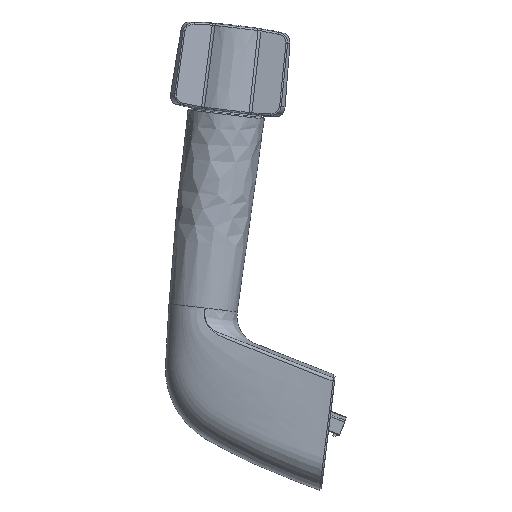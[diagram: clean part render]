
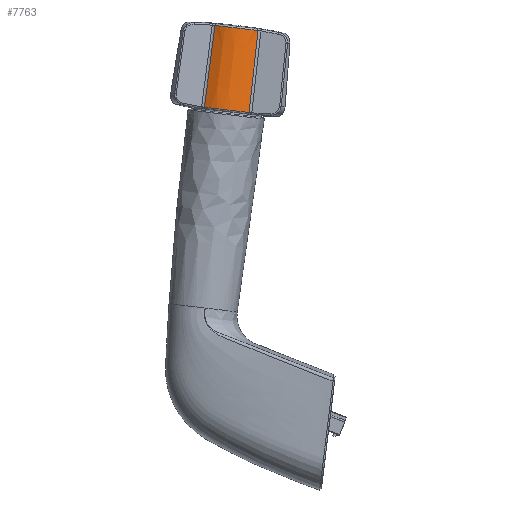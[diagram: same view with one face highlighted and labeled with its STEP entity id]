
A CAD part, top view. The second image highlights one B-rep face of the part: STEP entity #7763.
In plain terms, the highlighted conical face has half-angle 2 degrees and reference radius 20 mm.
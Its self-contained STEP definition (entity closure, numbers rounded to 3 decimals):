
#3190 = EDGE_CURVE ( 'NONE', #4532, #4538, #21176, .T. ) ;
#3191 = EDGE_CURVE ( 'NONE', #4538, #4542, #12660, .T. ) ;
#3192 = EDGE_CURVE ( 'NONE', #4542, #4543, #21175, .T. ) ;
#3193 = EDGE_CURVE ( 'NONE', #4543, #4532, #12659, .T. ) ;
#4114 = ORIENTED_EDGE ( 'NONE', *, *, #3190, .T. ) ;
#4115 = ORIENTED_EDGE ( 'NONE', *, *, #3191, .T. ) ;
#4116 = ORIENTED_EDGE ( 'NONE', *, *, #3192, .T. ) ;
#4117 = ORIENTED_EDGE ( 'NONE', *, *, #3193, .T. ) ;
#4532 = VERTEX_POINT ( 'NONE', #14474 ) ;
#4538 = VERTEX_POINT ( 'NONE', #14480 ) ;
#4542 = VERTEX_POINT ( 'NONE', #14484 ) ;
#4543 = VERTEX_POINT ( 'NONE', #14485 ) ;
#7763 = ADVANCED_FACE ( 'NONE', ( #20759 ), #18428, .T. ) ;
#12404 = EDGE_LOOP ( 'NONE', ( #4114, #4115, #4116, #4117 ) ) ;
#12659 = CIRCLE ( 'NONE', #12662, 19.971 ) ;
#12660 = CIRCLE ( 'NONE', #12661, 18.544 ) ;
#12661 = AXIS2_PLACEMENT_3D ( 'NONE', #13714, #13715, #13716 ) ;
#12662 = AXIS2_PLACEMENT_3D ( 'NONE', #13725, #13726, #13727 ) ;
#13699 = CARTESIAN_POINT ( 'NONE',  ( -114.625, 196.486, 16.545 ) ) ;
#13700 = CARTESIAN_POINT ( 'NONE',  ( -114.51, 197.537, 16.507 ) ) ;
#13704 = CARTESIAN_POINT ( 'NONE',  ( -114.74, 195.435, 16.583 ) ) ;
#13705 = CARTESIAN_POINT ( 'NONE',  ( -114.395, 198.588, 16.469 ) ) ;
#13706 = CARTESIAN_POINT ( 'NONE',  ( -113.814, 203.886, 16.279 ) ) ;
#13707 = CARTESIAN_POINT ( 'NONE',  ( -113.234, 209.184, 16.089 ) ) ;
#13708 = CARTESIAN_POINT ( 'NONE',  ( -112.655, 214.483, 15.899 ) ) ;
#13709 = CARTESIAN_POINT ( 'NONE',  ( -111.868, 221.678, 15.641 ) ) ;
#13710 = CARTESIAN_POINT ( 'NONE',  ( -111.083, 228.873, 15.383 ) ) ;
#13711 = CARTESIAN_POINT ( 'NONE',  ( -110.299, 236.068, 15.125 ) ) ;
#13712 = CARTESIAN_POINT ( 'NONE',  ( -131.745, 237.527, 15.164 ) ) ;
#13713 = CARTESIAN_POINT ( 'NONE',  ( -131.885, 236.446, 15.203 ) ) ;
#13714 = CARTESIAN_POINT ( 'NONE',  ( -120.952, 237.338, 0. ) ) ;
#13715 = DIRECTION ( 'NONE',  ( -0.118, -0.993, 0. ) ) ;
#13716 = DIRECTION ( 'NONE',  ( 0.993, -0.118, 0. ) ) ;
#13717 = CARTESIAN_POINT ( 'NONE',  ( -131.605, 238.609, 15.125 ) ) ;
#13718 = CARTESIAN_POINT ( 'NONE',  ( -132.025, 235.365, 15.242 ) ) ;
#13719 = CARTESIAN_POINT ( 'NONE',  ( -132.709, 230.079, 15.432 ) ) ;
#13720 = CARTESIAN_POINT ( 'NONE',  ( -133.393, 224.793, 15.622 ) ) ;
#13721 = CARTESIAN_POINT ( 'NONE',  ( -134.076, 219.507, 15.812 ) ) ;
#13722 = CARTESIAN_POINT ( 'NONE',  ( -134.999, 212.362, 16.069 ) ) ;
#13723 = CARTESIAN_POINT ( 'NONE',  ( -135.921, 205.216, 16.325 ) ) ;
#13724 = CARTESIAN_POINT ( 'NONE',  ( -136.842, 198.07, 16.583 ) ) ;
#13725 = CARTESIAN_POINT ( 'NONE',  ( -125.791, 196.752, 0. ) ) ;
#13726 = DIRECTION ( 'NONE',  ( 0.118, 0.993, 0. ) ) ;
#13727 = DIRECTION ( 'NONE',  ( 0.993, -0.118, 0. ) ) ;
#14474 = CARTESIAN_POINT ( 'NONE',  ( -114.74, 195.435, 16.583 ) ) ;
#14480 = CARTESIAN_POINT ( 'NONE',  ( -110.299, 236.068, 15.125 ) ) ;
#14484 = CARTESIAN_POINT ( 'NONE',  ( -131.605, 238.609, 15.125 ) ) ;
#14485 = CARTESIAN_POINT ( 'NONE',  ( -136.842, 198.07, 16.583 ) ) ;
#18428 = CONICAL_SURFACE ( 'NONE', #18429, 20., 0.035 ) ;
#18429 = AXIS2_PLACEMENT_3D ( 'NONE', #20758, #20760, #20757 ) ;
#20757 = DIRECTION ( 'NONE',  ( 0.993, -0.118, 0. ) ) ;
#20758 = CARTESIAN_POINT ( 'NONE',  ( -125.889, 195.93, 0. ) ) ;
#20759 = FACE_OUTER_BOUND ( 'NONE', #12404, .T. ) ;
#20760 = DIRECTION ( 'NONE',  ( -0.118, -0.993, 0. ) ) ;
#21175 = B_SPLINE_CURVE_WITH_KNOTS ( 'NONE', 3,
 ( #13717, #13712, #13713, #13718, #13719, #13720, #13721, #13722, #13723, #13724 ),
 .UNSPECIFIED., .F., .F.,
 ( 4, 3, 3, 4 ),
 ( 0.001, 0.004, 0.02, 0.042 ),
 .UNSPECIFIED. ) ;
#21176 = B_SPLINE_CURVE_WITH_KNOTS ( 'NONE', 3,
 ( #13704, #13699, #13700, #13705, #13706, #13707, #13708, #13709, #13710, #13711 ),
 .UNSPECIFIED., .F., .F.,
 ( 4, 3, 3, 4 ),
 ( 0.001, 0.004, 0.02, 0.042 ),
 .UNSPECIFIED. ) ;
